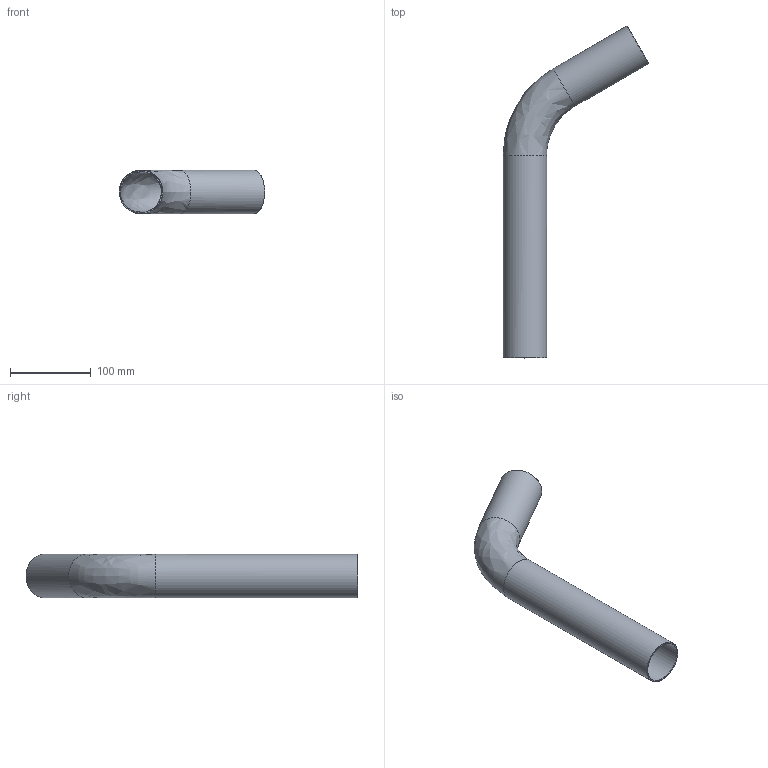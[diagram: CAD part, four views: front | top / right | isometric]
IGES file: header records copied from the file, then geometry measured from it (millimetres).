
Global section: file name: C72AJ; native system: Autodesk Inventor 2023; preprocessor: unknown; author: lvalentini; date: 20230921.121017; units: millimetre
Bounding box: 180.73 x 412.28 x 54 mm (x, y, z)
Volume: 114388 mm3; surface area: 152228.8 mm2
Topology: 1 solids, 1 shells, 12 faces, 26 edges, 16 vertices
Faces by surface type: bspline 12
